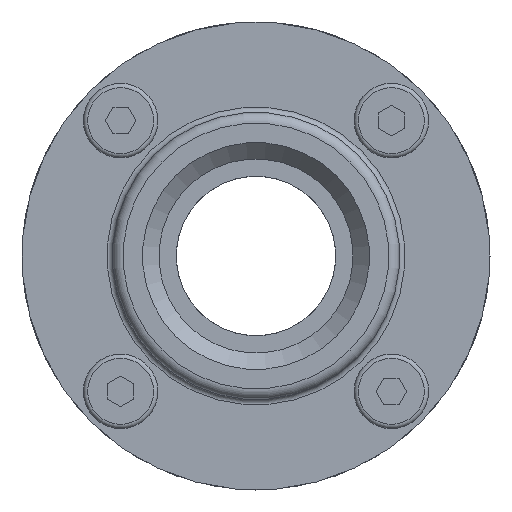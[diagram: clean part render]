
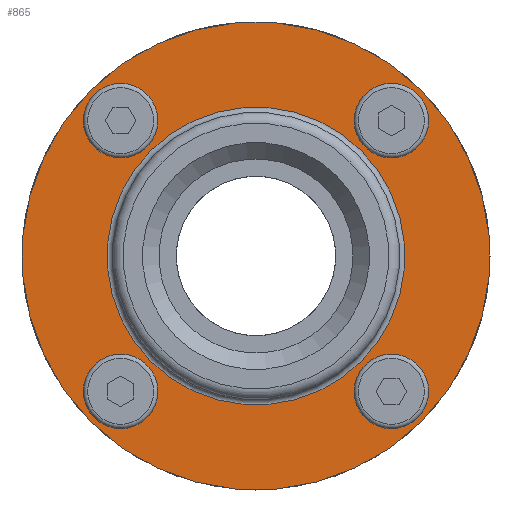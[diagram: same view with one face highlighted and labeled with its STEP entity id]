
A CAD part, front view. The second image highlights one B-rep face of the part: STEP entity #865.
In plain terms, the highlighted planar face has unit normal (0, -1, 0).
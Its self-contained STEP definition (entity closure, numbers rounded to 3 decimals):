
#865=ADVANCED_FACE('',(#1358,#1359,#1360,#1361,#1362,#1363),#1106,.F.);
#1106=PLANE('',#4126);
#1358=FACE_BOUND('',#1813,.T.);
#1359=FACE_BOUND('',#1814,.T.);
#1360=FACE_BOUND('',#1815,.T.);
#1361=FACE_BOUND('',#1816,.T.);
#1362=FACE_BOUND('',#1817,.T.);
#1363=FACE_BOUND('',#1818,.T.);
#1813=EDGE_LOOP('',(#2383));
#1814=EDGE_LOOP('',(#2384));
#1815=EDGE_LOOP('',(#2385));
#1816=EDGE_LOOP('',(#2386));
#1817=EDGE_LOOP('',(#2387));
#1818=EDGE_LOOP('',(#2388));
#2383=ORIENTED_EDGE('',*,*,#3370,.F.);
#2384=ORIENTED_EDGE('',*,*,#3371,.F.);
#2385=ORIENTED_EDGE('',*,*,#3372,.F.);
#2386=ORIENTED_EDGE('',*,*,#3373,.F.);
#2387=ORIENTED_EDGE('',*,*,#3374,.T.);
#2388=ORIENTED_EDGE('',*,*,#3349,.T.);
#3001=VERTEX_POINT('',#5929);
#3022=VERTEX_POINT('',#5989);
#3023=VERTEX_POINT('',#5991);
#3024=VERTEX_POINT('',#5993);
#3025=VERTEX_POINT('',#5995);
#3026=VERTEX_POINT('',#5997);
#3349=EDGE_CURVE('',#3001,#3001,#3782,.T.);
#3370=EDGE_CURVE('',#3022,#3022,#3803,.T.);
#3371=EDGE_CURVE('',#3023,#3023,#3804,.T.);
#3372=EDGE_CURVE('',#3024,#3024,#3805,.T.);
#3373=EDGE_CURVE('',#3025,#3025,#3806,.T.);
#3374=EDGE_CURVE('',#3026,#3026,#3807,.T.);
#3782=CIRCLE('',#4082,22.);
#3803=CIRCLE('',#4121,2.1);
#3804=CIRCLE('',#4122,2.1);
#3805=CIRCLE('',#4123,2.1);
#3806=CIRCLE('',#4124,2.1);
#3807=CIRCLE('',#4125,14.);
#4082=AXIS2_PLACEMENT_3D('',#5928,#4781,#4782);
#4121=AXIS2_PLACEMENT_3D('',#5988,#4859,#4860);
#4122=AXIS2_PLACEMENT_3D('',#5990,#4861,#4862);
#4123=AXIS2_PLACEMENT_3D('',#5992,#4863,#4864);
#4124=AXIS2_PLACEMENT_3D('',#5994,#4865,#4866);
#4125=AXIS2_PLACEMENT_3D('',#5996,#4867,#4868);
#4126=AXIS2_PLACEMENT_3D('',#5998,#4869,#4870);
#4781=DIRECTION('',(0.,-1.,0.));
#4782=DIRECTION('',(-0.707,0.,0.707));
#4859=DIRECTION('',(0.,-1.,0.));
#4860=DIRECTION('',(-0.707,0.,0.707));
#4861=DIRECTION('',(0.,-1.,0.));
#4862=DIRECTION('',(-0.707,0.,0.707));
#4863=DIRECTION('',(0.,-1.,0.));
#4864=DIRECTION('',(-0.707,0.,0.707));
#4865=DIRECTION('',(0.,-1.,0.));
#4866=DIRECTION('',(-0.707,0.,0.707));
#4867=DIRECTION('',(0.,1.,0.));
#4868=DIRECTION('',(-0.707,0.,0.707));
#4869=DIRECTION('',(0.,1.,0.));
#4870=DIRECTION('',(-0.707,0.,0.707));
#5928=CARTESIAN_POINT('',(0.,-40.5,0.));
#5929=CARTESIAN_POINT('',(-15.556,-40.5,15.556));
#5988=CARTESIAN_POINT('',(-12.728,-40.5,-12.728));
#5989=CARTESIAN_POINT('',(-14.213,-40.5,-11.243));
#5990=CARTESIAN_POINT('',(12.728,-40.5,-12.728));
#5991=CARTESIAN_POINT('',(11.243,-40.5,-11.243));
#5992=CARTESIAN_POINT('',(12.728,-40.5,12.728));
#5993=CARTESIAN_POINT('',(11.243,-40.5,14.213));
#5994=CARTESIAN_POINT('',(-12.728,-40.5,12.728));
#5995=CARTESIAN_POINT('',(-14.213,-40.5,14.213));
#5996=CARTESIAN_POINT('',(0.,-40.5,0.));
#5997=CARTESIAN_POINT('',(-9.899,-40.5,9.899));
#5998=CARTESIAN_POINT('',(0.,-40.5,0.));
